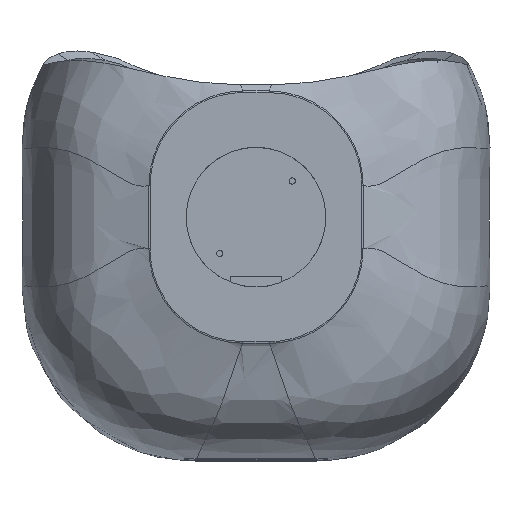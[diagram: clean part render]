
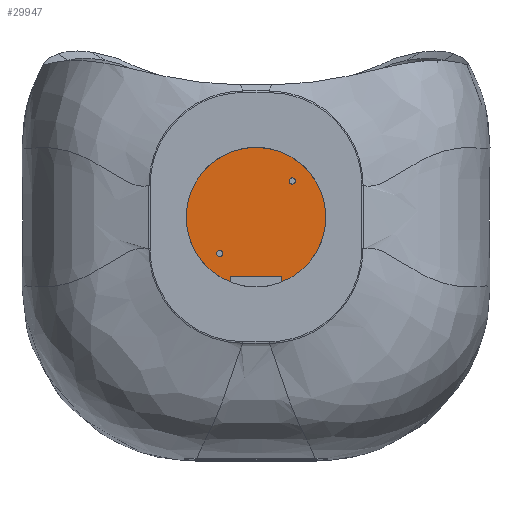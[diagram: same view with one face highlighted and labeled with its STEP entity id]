
A CAD part, top view. The second image highlights one B-rep face of the part: STEP entity #29947.
In plain terms, the highlighted planar face has unit normal (0, 0, 1).
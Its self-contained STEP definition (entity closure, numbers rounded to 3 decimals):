
#25736 = VERTEX_POINT('',#25737);
#25737 = CARTESIAN_POINT('',(-10.,-10.237,116.391));
#25755 = VERTEX_POINT('',#25756);
#25756 = CARTESIAN_POINT('',(10.,-10.237,116.391));
#25762 = EDGE_CURVE('',#25755,#25763,#25765,.T.);
#25763 = VERTEX_POINT('',#25764);
#25764 = CARTESIAN_POINT('',(27.,14.843,116.391));
#25765 = CIRCLE('',#25766,27.);
#25766 = AXIS2_PLACEMENT_3D('',#25767,#25768,#25769);
#25767 = CARTESIAN_POINT('',(0.,14.843,116.391));
#25768 = DIRECTION('',(0.,0.,1.));
#25769 = DIRECTION('',(1.,0.,0.));
#25778 = EDGE_CURVE('',#25763,#25736,#25779,.T.);
#25779 = CIRCLE('',#25780,27.);
#25780 = AXIS2_PLACEMENT_3D('',#25781,#25782,#25783);
#25781 = CARTESIAN_POINT('',(0.,14.843,116.391));
#25782 = DIRECTION('',(0.,0.,1.));
#25783 = DIRECTION('',(1.,0.,0.));
#29864 = VERTEX_POINT('',#29865);
#29865 = CARTESIAN_POINT('',(-10.,-8.157,116.391));
#29871 = EDGE_CURVE('',#25736,#29864,#29872,.T.);
#29872 = LINE('',#29873,#29874);
#29873 = CARTESIAN_POINT('',(-10.,-10.657,116.391));
#29874 = VECTOR('',#29875,1.);
#29875 = DIRECTION('',(0.,1.,0.));
#29929 = VERTEX_POINT('',#29930);
#29930 = CARTESIAN_POINT('',(10.,-8.157,116.391));
#29936 = EDGE_CURVE('',#25755,#29929,#29937,.T.);
#29937 = LINE('',#29938,#29939);
#29938 = CARTESIAN_POINT('',(10.,-10.657,116.391));
#29939 = VECTOR('',#29940,1.);
#29940 = DIRECTION('',(0.,1.,0.));
#29947 = ADVANCED_FACE('',(#29948,#29960,#29971),#29982,.T.);
#29948 = FACE_BOUND('',#29949,.T.);
#29949 = EDGE_LOOP('',(#29950,#29951,#29952,#29953,#29959));
#29950 = ORIENTED_EDGE('',*,*,#25762,.T.);
#29951 = ORIENTED_EDGE('',*,*,#25778,.T.);
#29952 = ORIENTED_EDGE('',*,*,#29871,.T.);
#29953 = ORIENTED_EDGE('',*,*,#29954,.F.);
#29954 = EDGE_CURVE('',#29929,#29864,#29955,.T.);
#29955 = LINE('',#29956,#29957);
#29956 = CARTESIAN_POINT('',(-5.,-8.157,116.391));
#29957 = VECTOR('',#29958,1.);
#29958 = DIRECTION('',(-1.,0.,0.));
#29959 = ORIENTED_EDGE('',*,*,#29936,.F.);
#29960 = FACE_BOUND('',#29961,.T.);
#29961 = EDGE_LOOP('',(#29962));
#29962 = ORIENTED_EDGE('',*,*,#29963,.F.);
#29963 = EDGE_CURVE('',#29964,#29964,#29966,.T.);
#29964 = VERTEX_POINT('',#29965);
#29965 = CARTESIAN_POINT('',(-12.8,0.843,116.391));
#29966 = CIRCLE('',#29967,1.2);
#29967 = AXIS2_PLACEMENT_3D('',#29968,#29969,#29970);
#29968 = CARTESIAN_POINT('',(-14.,0.843,116.391));
#29969 = DIRECTION('',(0.,0.,1.));
#29970 = DIRECTION('',(1.,0.,0.));
#29971 = FACE_BOUND('',#29972,.T.);
#29972 = EDGE_LOOP('',(#29973));
#29973 = ORIENTED_EDGE('',*,*,#29974,.F.);
#29974 = EDGE_CURVE('',#29975,#29975,#29977,.T.);
#29975 = VERTEX_POINT('',#29976);
#29976 = CARTESIAN_POINT('',(15.2,28.843,116.391));
#29977 = CIRCLE('',#29978,1.2);
#29978 = AXIS2_PLACEMENT_3D('',#29979,#29980,#29981);
#29979 = CARTESIAN_POINT('',(14.,28.843,116.391));
#29980 = DIRECTION('',(0.,0.,1.));
#29981 = DIRECTION('',(1.,0.,0.));
#29982 = PLANE('',#29983);
#29983 = AXIS2_PLACEMENT_3D('',#29984,#29985,#29986);
#29984 = CARTESIAN_POINT('',(0.,14.843,116.391));
#29985 = DIRECTION('',(0.,0.,1.));
#29986 = DIRECTION('',(1.,0.,0.));
